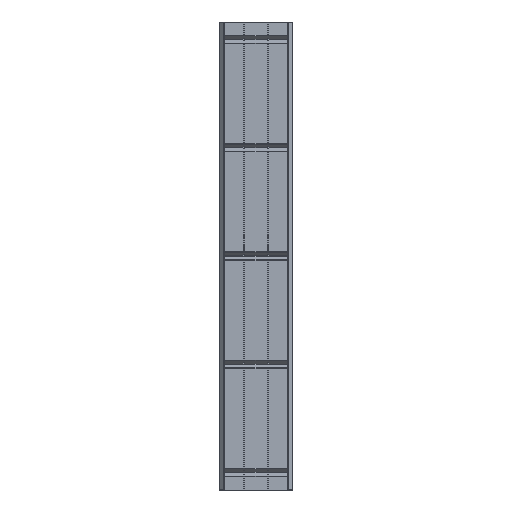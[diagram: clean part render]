
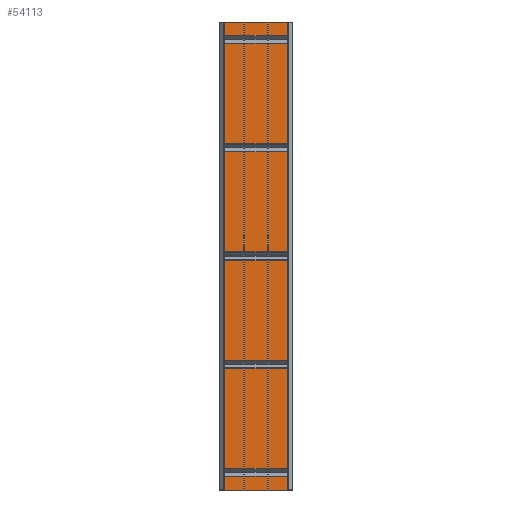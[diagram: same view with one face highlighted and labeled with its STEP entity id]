
A CAD part, front view. The second image highlights one B-rep face of the part: STEP entity #54113.
In plain terms, the highlighted planar face has unit normal (0, -1, 0).
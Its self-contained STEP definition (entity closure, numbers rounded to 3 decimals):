
#1338 = VECTOR ( 'NONE', #23562, 1000. ) ;
#2421 = CARTESIAN_POINT ( 'NONE',  ( -228.6, -68.75, 3010. ) ) ;
#3465 = AXIS2_PLACEMENT_3D ( 'NONE', #9211, #30429, #42866 ) ;
#8087 = VERTEX_POINT ( 'NONE', #43342 ) ;
#9211 = CARTESIAN_POINT ( 'NONE',  ( -228.6, -68.75, 20. ) ) ;
#10908 = ORIENTED_EDGE ( 'NONE', *, *, #30902, .F. ) ;
#14340 = EDGE_CURVE ( 'NONE', #8087, #51981, #28347, .T. ) ;
#16168 = VERTEX_POINT ( 'NONE', #34436 ) ;
#18371 = ORIENTED_EDGE ( 'NONE', *, *, #14340, .F. ) ;
#18872 = DIRECTION ( 'NONE',  ( 0., 0., 1. ) ) ;
#19642 = EDGE_CURVE ( 'NONE', #16168, #33914, #51999, .T. ) ;
#19711 = EDGE_CURVE ( 'NONE', #33914, #51981, #40927, .T. ) ;
#19964 = CARTESIAN_POINT ( 'NONE',  ( 228.6, -68.75, 20. ) ) ;
#23562 = DIRECTION ( 'NONE',  ( 1., 0., 0. ) ) ;
#27916 = EDGE_LOOP ( 'NONE', ( #47464, #18371, #10908, #53617 ) ) ;
#28347 = LINE ( 'NONE', #2421, #54162 ) ;
#30429 = DIRECTION ( 'NONE',  ( 0., -1., 0. ) ) ;
#30902 = EDGE_CURVE ( 'NONE', #16168, #8087, #47227, .T. ) ;
#30992 = CARTESIAN_POINT ( 'NONE',  ( -228.6, -68.75, 20. ) ) ;
#33914 = VERTEX_POINT ( 'NONE', #43245 ) ;
#34436 = CARTESIAN_POINT ( 'NONE',  ( -228.6, -68.75, 20. ) ) ;
#36069 = DIRECTION ( 'NONE',  ( 1., 0., 0. ) ) ;
#40309 = DIRECTION ( 'NONE',  ( 0., 0., 1. ) ) ;
#40927 = LINE ( 'NONE', #19964, #48002 ) ;
#42866 = DIRECTION ( 'NONE',  ( 0., 0., -1. ) ) ;
#43099 = CARTESIAN_POINT ( 'NONE',  ( -228.6, -68.75, 20. ) ) ;
#43245 = CARTESIAN_POINT ( 'NONE',  ( 228.6, -68.75, 20. ) ) ;
#43342 = CARTESIAN_POINT ( 'NONE',  ( -228.6, -68.75, 3010. ) ) ;
#47010 = PLANE ( 'NONE',  #3465 ) ;
#47227 = LINE ( 'NONE', #43099, #52390 ) ;
#47464 = ORIENTED_EDGE ( 'NONE', *, *, #19711, .T. ) ;
#48002 = VECTOR ( 'NONE', #18872, 1000. ) ;
#50734 = CARTESIAN_POINT ( 'NONE',  ( 228.6, -68.75, 3010. ) ) ;
#51428 = FACE_OUTER_BOUND ( 'NONE', #27916, .T. ) ;
#51981 = VERTEX_POINT ( 'NONE', #50734 ) ;
#51999 = LINE ( 'NONE', #30992, #1338 ) ;
#52390 = VECTOR ( 'NONE', #40309, 1000. ) ;
#53617 = ORIENTED_EDGE ( 'NONE', *, *, #19642, .T. ) ;
#54113 = ADVANCED_FACE ( 'NONE', ( #51428 ), #47010, .T. ) ;
#54162 = VECTOR ( 'NONE', #36069, 1000. ) ;
